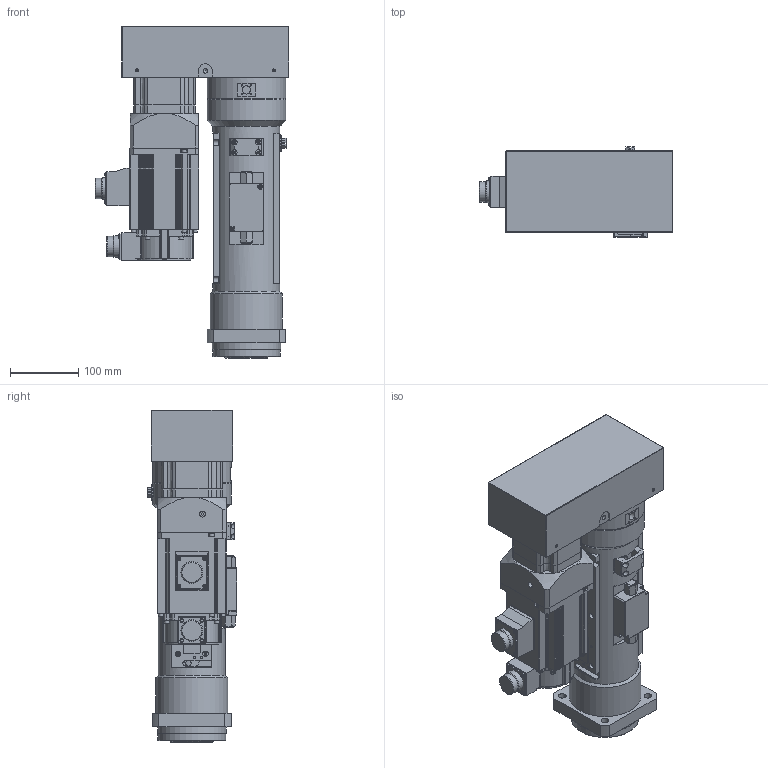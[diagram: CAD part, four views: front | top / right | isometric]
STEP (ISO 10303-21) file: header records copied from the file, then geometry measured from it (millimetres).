
FILE_DESCRIPTION( ('This file contains a STEP AP42 implementation' ,'as created by ZW3D STEP Interface translator.') ,'2;1' );
FILE_NAME( 'OACIS-DC-P010-150-200V200-A6_ASM_20.01.stp' ,'25 3 8. 933 0', (''), ('ZWCAD Software Co.'), 'Version 1.0', 'ZW3D to STEP translator', '' );
FILE_SCHEMA(('AUTOMOTIVE_DESIGN { 1 0 10303 214 1 1 1 1 }'));
Length unit declared in the file: millimetre
Products named in the file (2): 0; OACIS-DC-P010-150-200V200-A6_ASM_20.01
Bounding box: 283 x 131.5 x 485.5 mm (x, y, z)
Volume: 4006684.6 mm3; surface area: 978204.4 mm2
Topology: 16 solids, 30 shells, 1980 faces, 5001 edges, 3226 vertices
Faces by surface type: cylinder 932, plane 727, cone 142, bspline 118, torus 40, sphere 21
Full cylindrical faces by diameter (mm): 1.6 x8, 2.459 x1, 3.3 x76, 4.2 x4, 4.3 x21, 4.5 x4, 5 x24, 5.5 x2, 5.6 x5, 6.8 x36, 7 x12, 8 x35, 8.4 x8, 8.5 x17, 9 x4, 9.5 x2, 11 x4, 12 x1, 15 x8, 15.5 x2, 16.5 x1, 18 x3, 19 x1, 25.4 x2, 26 x1, 27 x1, 29.75 x2, 31.75 x1, 31.9 x1, 32 x1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
Entity records: 65237 total; most frequent: CARTESIAN_POINT 15049, DIRECTION 10383, ORIENTED_EDGE 9775, EDGE_CURVE 4911, AXIS2_PLACEMENT_3D 3988, VERTEX_POINT 3164, VECTOR 2407, LINE 2407
